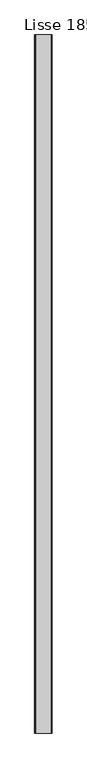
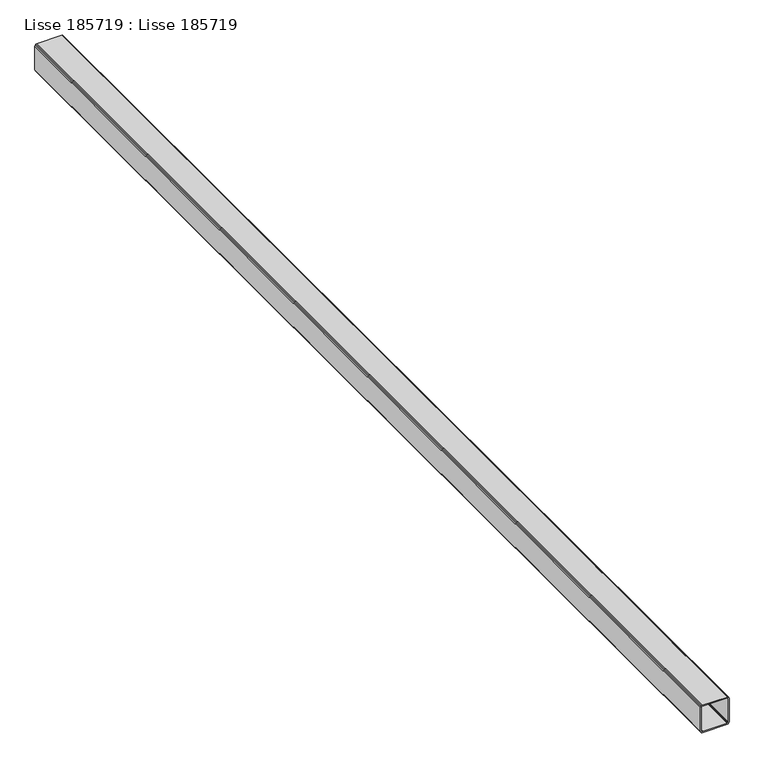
"""IFC4 building model written with IfcOpenShell, lengths in millimetres: beam geometry, Lisse 185719 : Lisse 185719."""

from ifc_helpers import new_model, si_unit, frame, origin, place, context, project, spatial, polyline, outline, extrude, source, transform, mapped, element, save


def lisse_185719_lisse_185719_032e5ac0(model_context):
    return source(origin(), model_context, "Body", "SweptSolid", [
        extrude(outline(polyline([(4906.0, -180.0000001), (4903.0, -179.1961526), (4900.8038476, -177.0000001), (4900.0, -174.0000001), (4900.0, -86.0000001), (4900.8038476, -83.0000001), (4903.0, -80.8038477), (4906.0, -80.0000001), (4994.0, -80.0000001), (4997.0, -80.8038477), (4999.1961524, -83.0000001), (5000.0, -86.0000001), (5000.0, -174.0000001), (4999.1961524, -177.0000001), (4997.0, -179.1961526), (4994.0, -180.0000001), (4906.0, -180.0000001)]), holes=[polyline([(4992.0, -176.0000001), (4994.0, -175.4641017), (4995.4641016, -174.0000001), (4996.0, -172.0000001), (4996.0, -88.0000001), (4995.4641016, -86.0000001), (4994.0, -84.5358985), (4992.0, -84.0000001), (4908.0, -84.0000001), (4906.0, -84.5358985), (4904.5358984, -86.0000001), (4904.0, -88.0000001), (4904.0, -172.0000001), (4904.5358984, -174.0000001), (4906.0, -175.4641017), (4908.0, -176.0000001), (4992.0, -176.0000001)])]), frame((0.0, -12715.0, 0.0), z_axis=(0.0, 1.0, 0.0), x_axis=(0.0, 0.0, 1.0)), (0.0, 0.0, 1.0), 4030.0),
    ])


if __name__ == "__main__":
    model = new_model("IFC4")
    model_context = context("Model", 3, world=origin())
    ifc_project = project(units=[si_unit("LENGTHUNIT", "METRE", prefix="MILLI")], contexts=[model_context])
    site = spatial("IfcSite", under=ifc_project)
    building = spatial("IfcBuilding", under=site)
    placement = place(None, origin())
    lisse_185719_lisse_185719_shape = lisse_185719_lisse_185719_032e5ac0(model_context)
    element("IfcBeam", 1, ObjectType="Lisse 185719 : Lisse 185719", at=placement, inside=building, context=model_context, shape_type="MappedRepresentation", body=[
        mapped(lisse_185719_lisse_185719_shape, transform((0.0, 0.0, 0.0), x_axis=(1.0, 0.0, 0.0), y_axis=(0.0, 1.0, 0.0), z_axis=(0.0, 0.0, 1.0))),
    ])
    save(model, "model.ifc")
